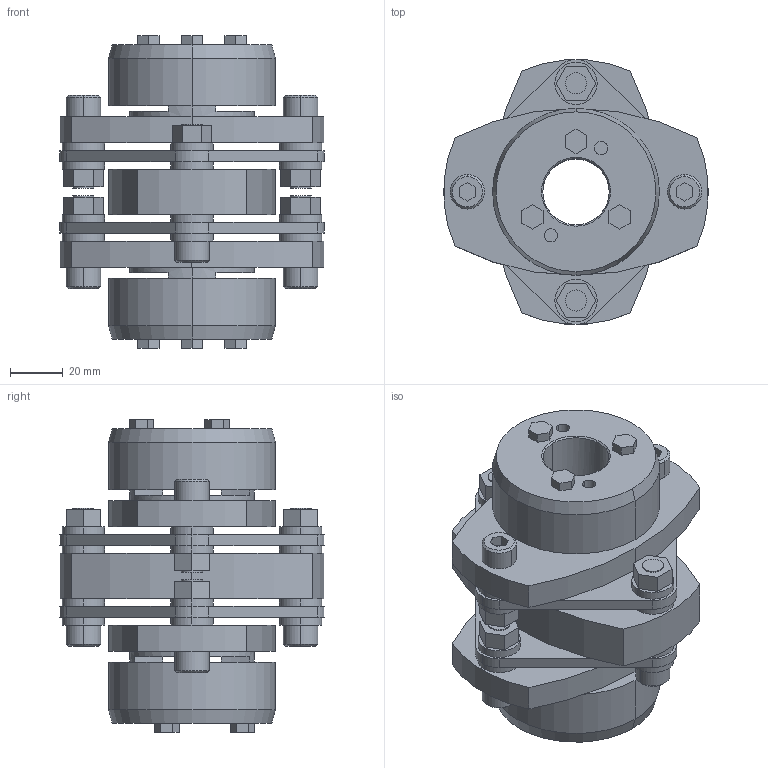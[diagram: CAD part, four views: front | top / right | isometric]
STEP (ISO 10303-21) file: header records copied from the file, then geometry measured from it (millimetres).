
FILE_DESCRIPTION((''),'2;1');
FILE_NAME('LCD-100T7-25×25.stp','2011-09-09T08:42:54',(''),(''),'AutoCAD STEP 2000i','AutoCAD 2000i',', , ');
FILE_SCHEMA(('CONFIG_CONTROL_DESIGN'));
Length unit declared in the file: millimetre
Products named in the file (7): LCD-100T7-25×25; 忣兜1; LC100T7-T025-1; LC100T7-T025; LC100T7-T022-1; LC100T7-T022; LCD100-ITA
Assembly tree (6 placements, depth 2):
  LCD-100T7-25×25
    忣兜1
    LC100T7-T025-1
    LC100T7-T025
    LC100T7-T022-1
    LC100T7-T022
    LCD100-ITA
Bounding box: 100 x 99.93 x 118 mm (x, y, z)
Volume: 347810.6 mm3; surface area: 89069.2 mm2
Topology: 1 solids, 1 shells, 320 faces, 780 edges, 512 vertices
Faces by surface type: plane 176, cylinder 120, cone 24
Entity records: 9663 total; most frequent: DIRECTION 1714, CARTESIAN_POINT 1619, ORIENTED_EDGE 1560, EDGE_CURVE 780, AXIS2_PLACEMENT_3D 607, VERTEX_POINT 512, VECTOR 500, LINE 500
